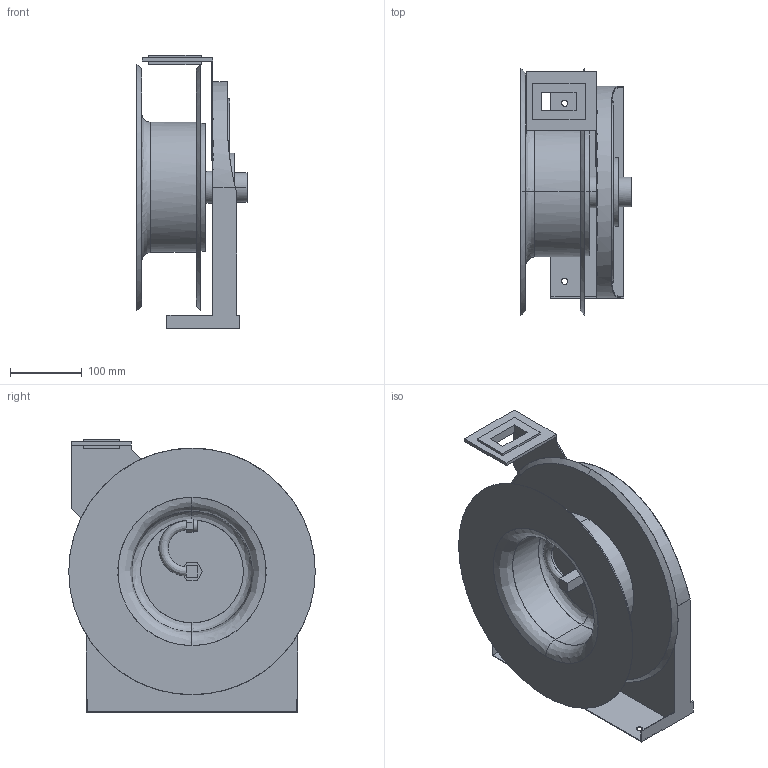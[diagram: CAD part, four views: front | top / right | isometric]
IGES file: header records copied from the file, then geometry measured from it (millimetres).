
Start section: Comment
Global section: file name: 5000 OXP TW.igs; native system:  By UGS Corp.; preprocessor: XPlus GENERIC/IGES 3.0; author: Author; organization: Title; date: 20120809.084059; units: millimetre
Bounding box: 153.11 x 342.9 x 380.01 mm (x, y, z)
Surface area: 765091.9 mm2 (no closed solid volume)
Topology: 0 solids, 0 shells, 137 faces, 656 edges, 656 vertices
Faces by surface type: bspline 137
